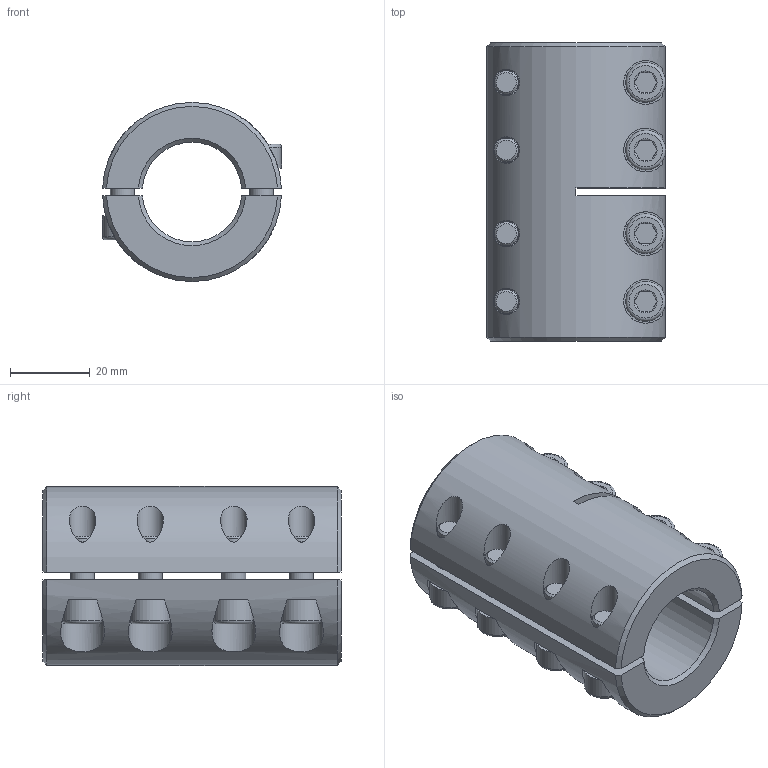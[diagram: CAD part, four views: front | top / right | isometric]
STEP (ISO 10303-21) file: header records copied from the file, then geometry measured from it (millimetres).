
FILE_DESCRIPTION( ( 'Unknown' ), '1' );
FILE_NAME( 'K:/Konstruktion/Fertigungszeichnungen/Schalenkupplung/KBST-G/KBST-G-25.stp', 'Unknown', ( 'Unknown' ), ( 'Unknown' ), 'PSStep 16.0.42', 'Unknown', ' ' );
FILE_SCHEMA( ( 'AUTOMOTIVE_DESIGN { 1 0 10303 214 1 1 1 1 }' ) );
Length unit declared in the file: millimetre
Products named in the file (4): Assem1; KBST-G-25; ISO EN DIN 4762 M6x16
Assembly tree (10 placements, depth 2):
  Assem1
    KBST-G-25
    KBST-G-25
    ISO EN DIN 4762 M6x16  x8
Bounding box: 45 x 75 x 45 mm (x, y, z)
Volume: 75305 mm3; surface area: 30153.1 mm2
Topology: 10 solids, 10 shells, 260 faces, 496 edges, 296 vertices
Faces by surface type: plane 120, cone 64, cylinder 60, torus 16
Full cylindrical faces by diameter (mm): 4.917 x4, 5 x8, 6 x16, 6.4 x8, 6.647 x4, 10 x8
Entity records: 4106 total; most frequent: CARTESIAN_POINT 1472, DIRECTION 390, ORIENTED_EDGE 326, AXIS2_PLACEMENT_3D 169, EDGE_CURVE 163, EDGE_LOOP 152, VERTEX_POINT 119, FACE_OUTER_BOUND 107
